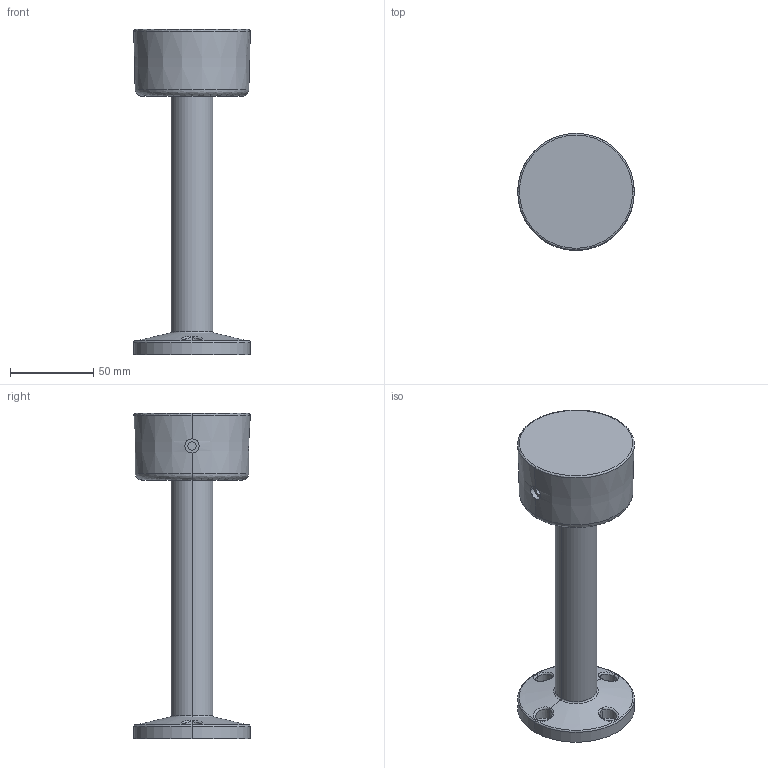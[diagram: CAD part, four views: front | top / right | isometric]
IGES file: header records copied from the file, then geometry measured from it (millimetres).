
Start section: IGES file generated by C3D Converter 1.6 translator by C3D Labs., translator version IGESOUT-5.1.
Global section: file name: HC:\Users\沓膼\OneDrive\Desktop\欙鵳醆TL70\鐕謽僗\扻豵鵨155.igs; preprocessor: 1.0; author: 沓膼,7; organization: Hunknown; date: -17760826:041724; units: millimetre
Bounding box: 70 x 70 x 195 mm (x, y, z)
Volume: 171839.1 mm3; surface area: 56466.7 mm2
Topology: 1 solids, 1 shells, 159 faces, 433 edges, 282 vertices
Faces by surface type: bspline 87, revolution 72
